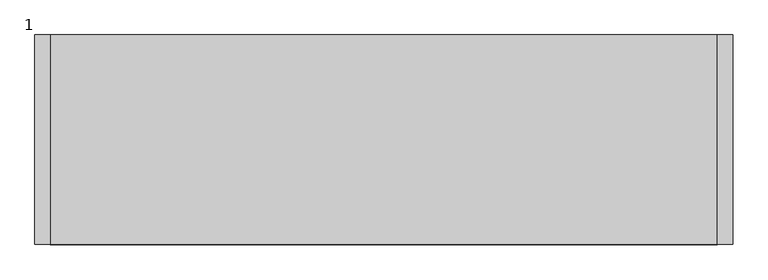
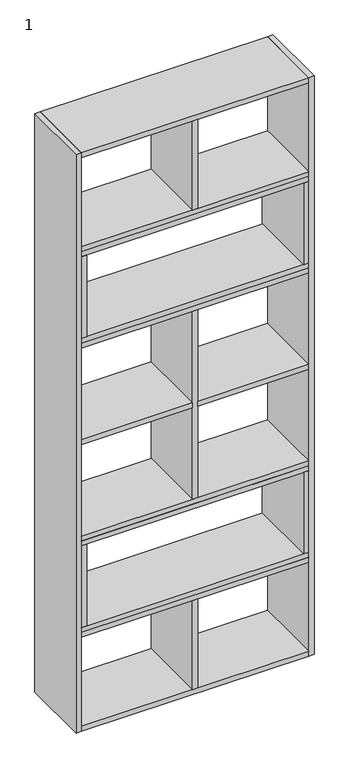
"""IFC4 building model written with IfcOpenShell, lengths in millimetres: furniture geometry, MUEBLE ACCESO 1.00X0.30 : 1."""

from ifc_helpers import new_model, si_unit, frame, origin, origin_with_axes, place, context, project, spatial, polyline, outline, extrude, source, transform, mapped, element, save


def furniture_1_0d0d19ef(model_context):
    return source(origin(), model_context, "Body", "SweptSolid", [
        extrude(outline(polyline([(522.7003264, -353.8451017), (544.7003264, -353.8451017), (544.7003264, -653.8451017), (522.7003264, -653.8451017), (522.7003264, -353.8451017)])), origin_with_axes(), (0.0, 0.0, 1.0), 2570.0),
        extrude(outline(polyline([(-433.2996736, -353.8451017), (-433.2996736, -653.8451017), (-455.2996736, -653.8451017), (-455.2996736, -353.8451017), (-433.2996736, -353.8451017)])), origin_with_axes(), (0.0, 0.0, 1.0), 2570.0),
        extrude(outline(polyline([(33.7003264, -353.8451017), (55.7003264, -353.8451017), (55.7003264, -653.8451017), (33.7003264, -653.8451017), (33.7003264, -353.8451017)])), frame((0.0, 0.0, 2152.6666667), z_axis=(0.0, 0.0, 1.0), x_axis=(1.0, 0.0, 0.0)), (0.0, 0.0, 1.0), 395.3333333),
        extrude(outline(polyline([(-411.2996736, -353.8451017), (-411.2996736, -653.8451017), (-433.2996736, -653.8451017), (-433.2996736, -353.8451017), (-411.2996736, -353.8451017)])), frame((0.0, 0.0, 1746.3333333), z_axis=(0.0, 0.0, 1.0), x_axis=(1.0, 0.0, 0.0)), (0.0, 0.0, 1.0), 362.3333333),
        extrude(outline(polyline([(500.7003264, -353.8451017), (522.7003264, -353.8451017), (522.7003264, -653.8451017), (500.7003264, -653.8451017), (500.7003264, -353.8451017)])), frame((0.0, 0.0, 1746.3333333), z_axis=(0.0, 0.0, 1.0), x_axis=(1.0, 0.0, 0.0)), (0.0, 0.0, 1.0), 362.3333333),
        extrude(outline(polyline([(522.7003264, -653.8451017), (-433.2996736, -653.8451017), (-433.2996736, -353.8451017), (522.7003264, -353.8451017), (522.7003264, -653.8451017)])), frame((0.0, 0.0, 1724.3333333), z_axis=(0.0, 0.0, 1.0), x_axis=(1.0, 0.0, 0.0)), (0.0, 0.0, 1.0), 22.0),
        extrude(outline(polyline([(522.7003264, -653.8451017), (-433.2996736, -653.8451017), (-433.2996736, -353.8451017), (522.7003264, -353.8451017), (522.7003264, -653.8451017)])), frame((0.0, 0.0, 2108.6666667), z_axis=(0.0, 0.0, 1.0), x_axis=(1.0, 0.0, 0.0)), (0.0, 0.0, 1.0), 22.0),
        extrude(outline(polyline([(-411.2996736, -353.8451017), (-411.2996736, -653.8451017), (-433.2996736, -653.8451017), (-433.2996736, -353.8451017), (-411.2996736, -353.8451017)])), frame((0.0, 0.0, 461.3333333), z_axis=(0.0, 0.0, 1.0), x_axis=(1.0, 0.0, 0.0)), (0.0, 0.0, 1.0), 362.3333333),
        extrude(outline(polyline([(500.7003264, -353.8451017), (522.7003264, -353.8451017), (522.7003264, -653.8451017), (500.7003264, -653.8451017), (500.7003264, -353.8451017)])), frame((0.0, 0.0, 461.3333333), z_axis=(0.0, 0.0, 1.0), x_axis=(1.0, 0.0, 0.0)), (0.0, 0.0, 1.0), 362.3333333),
        extrude(outline(polyline([(522.7003264, -653.8451017), (-433.2996736, -653.8451017), (-433.2996736, -353.8451017), (522.7003264, -353.8451017), (522.7003264, -653.8451017)])), frame((0.0, 0.0, 439.3333333), z_axis=(0.0, 0.0, 1.0), x_axis=(1.0, 0.0, 0.0)), (0.0, 0.0, 1.0), 22.0),
        extrude(outline(polyline([(522.7003264, -653.8451017), (-433.2996736, -653.8451017), (-433.2996736, -353.8451017), (522.7003264, -353.8451017), (522.7003264, -653.8451017)])), frame((0.0, 0.0, 823.6666667), z_axis=(0.0, 0.0, 1.0), x_axis=(1.0, 0.0, 0.0)), (0.0, 0.0, 1.0), 22.0),
        extrude(outline(polyline([(33.7003264, -353.8451017), (55.7003264, -353.8451017), (55.7003264, -653.8451017), (33.7003264, -653.8451017), (33.7003264, -353.8451017)])), frame((0.0, 0.0, 22.0), z_axis=(0.0, 0.0, 1.0), x_axis=(1.0, 0.0, 0.0)), (0.0, 0.0, 1.0), 395.3333333),
        extrude(outline(polyline([(522.7003264, -653.8451017), (55.7003264, -653.8451017), (55.7003264, -353.8451017), (522.7003264, -353.8451017), (522.7003264, -653.8451017)])), frame((0.0, 0.0, 1274.0), z_axis=(0.0, 0.0, 1.0), x_axis=(1.0, 0.0, 0.0)), (0.0, 0.0, 1.0), 22.0),
        extrude(outline(polyline([(33.7003264, -653.8451017), (-433.2996736, -653.8451017), (-433.2996736, -353.8451017), (33.7003264, -353.8451017), (33.7003264, -653.8451017)])), frame((0.0, 0.0, 1274.0), z_axis=(0.0, 0.0, 1.0), x_axis=(1.0, 0.0, 0.0)), (0.0, 0.0, 1.0), 22.0),
        extrude(outline(polyline([(522.7003264, -653.8451017), (-433.2996736, -653.8451017), (-433.2996736, -353.8451017), (522.7003264, -353.8451017), (522.7003264, -653.8451017)])), frame((0.0, 0.0, 2130.6666667), z_axis=(0.0, 0.0, 1.0), x_axis=(1.0, 0.0, 0.0)), (0.0, 0.0, 1.0), 22.0),
        extrude(outline(polyline([(522.7003264, -653.8451017), (-433.2996736, -653.8451017), (-433.2996736, -353.8451017), (522.7003264, -353.8451017), (522.7003264, -653.8451017)])), frame((0.0, 0.0, 1702.3333333), z_axis=(0.0, 0.0, 1.0), x_axis=(1.0, 0.0, 0.0)), (0.0, 0.0, 1.0), 22.0),
        extrude(outline(polyline([(522.7003264, -653.8451017), (-433.2996736, -653.8451017), (-433.2996736, -353.8451017), (522.7003264, -353.8451017), (522.7003264, -653.8451017)])), frame((0.0, 0.0, 845.6666667), z_axis=(0.0, 0.0, 1.0), x_axis=(1.0, 0.0, 0.0)), (0.0, 0.0, 1.0), 22.0),
        extrude(outline(polyline([(522.7003264, -653.8451017), (-433.2996736, -653.8451017), (-433.2996736, -353.8451017), (522.7003264, -353.8451017), (522.7003264, -653.8451017)])), frame((0.0, 0.0, 417.3333333), z_axis=(0.0, 0.0, 1.0), x_axis=(1.0, 0.0, 0.0)), (0.0, 0.0, 1.0), 22.0),
        extrude(outline(polyline([(522.7003264, -653.8451017), (-433.2996736, -653.8451017), (-433.2996736, -353.8451017), (522.7003264, -353.8451017), (522.7003264, -653.8451017)])), frame((0.0, 0.0, 2548.0), z_axis=(0.0, 0.0, 1.0), x_axis=(1.0, 0.0, 0.0)), (0.0, 0.0, 1.0), 22.0),
        extrude(outline(polyline([(522.7003264, -653.8451017), (-433.2996736, -653.8451017), (-433.2996736, -353.8451017), (522.7003264, -353.8451017), (522.7003264, -653.8451017)])), origin_with_axes(), (0.0, 0.0, 1.0), 22.0),
        extrude(outline(polyline([(33.7003264, -353.8451017), (55.7003264, -353.8451017), (55.7003264, -653.8451017), (33.7003264, -653.8451017), (33.7003264, -353.8451017)])), frame((0.0, 0.0, 867.6666667), z_axis=(0.0, 0.0, 1.0), x_axis=(1.0, 0.0, 0.0)), (0.0, 0.0, 1.0), 834.6666667),
    ])


if __name__ == "__main__":
    model = new_model("IFC4")
    model_context = context("Model", 3, world=origin())
    ifc_project = project(units=[si_unit("LENGTHUNIT", "METRE", prefix="MILLI")], contexts=[model_context])
    site = spatial("IfcSite", under=ifc_project)
    building = spatial("IfcBuilding", under=site)
    placement = place(None, origin())
    furniture_1_shape = furniture_1_0d0d19ef(model_context)
    element("IfcFurniture", 1, ObjectType="MUEBLE ACCESO 1.00X0.30 : 1", at=placement, inside=building, context=model_context, shape_type="MappedRepresentation", body=[
        mapped(furniture_1_shape, transform((0.0, 0.0, 0.0), x_axis=(1.0, 0.0, 0.0), y_axis=(0.0, 1.0, 0.0), z_axis=(0.0, 0.0, 1.0))),
    ])
    save(model, "model.ifc")
